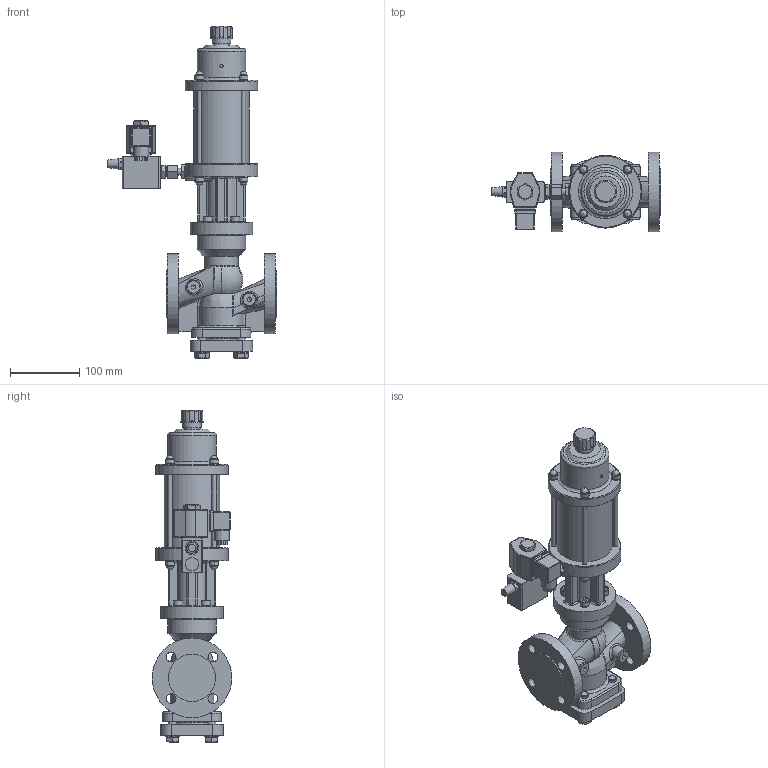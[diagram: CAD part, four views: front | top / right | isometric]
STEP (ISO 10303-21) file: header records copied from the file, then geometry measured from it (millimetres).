
FILE_DESCRIPTION((''),'2;1');
FILE_NAME('G:\CAD-Download\EPVO\10-4-EPVO\DN 25\10-4-EPVO 10NH-4R.02.stp','2010-01-28T13:00:14',('hb'),(''),'Autodesk Inventor 2008','Autodesk Inventor 2008','');
FILE_SCHEMA(('AUTOMOTIVE_DESIGN { 1 0 10303 214 1 1 1 1 }'));
Length unit declared in the file: millimetre
Products named in the file (1): 10-4-EPVO 10NH-4R.02
Bounding box: 244.99 x 115 x 479.15 mm (x, y, z)
Volume: 2619081.7 mm3; surface area: 283232.5 mm2
Topology: 1 solids, 1 shells, 975 faces, 2599 edges, 1613 vertices
Faces by surface type: plane 458, cylinder 258, bspline 125, cone 88, sphere 25, torus 21
Full cylindrical faces by diameter (mm): 5 x1, 6 x12, 8 x4, 10 x1, 12 x12, 13 x12, 14.376 x1, 16 x1, 16.63 x4, 18 x4, 19 x2, 20 x2, 20.15 x2, 21.5 x1, 26.6 x1, 32.2 x1, 47.7 x1, 48 x1, 58 x1, 65 x1, 68 x2, 70 x2, 80 x1, 90 x1, 105 x2, 115 x2
Entity records: 39214 total; most frequent: CARTESIAN_POINT 16426, ORIENTED_EDGE 4636, DIRECTION 4433, EDGE_CURVE 2318, AXIS2_PLACEMENT_3D 1707, VERTEX_POINT 1529, EDGE_LOOP 1290, VECTOR 1019
